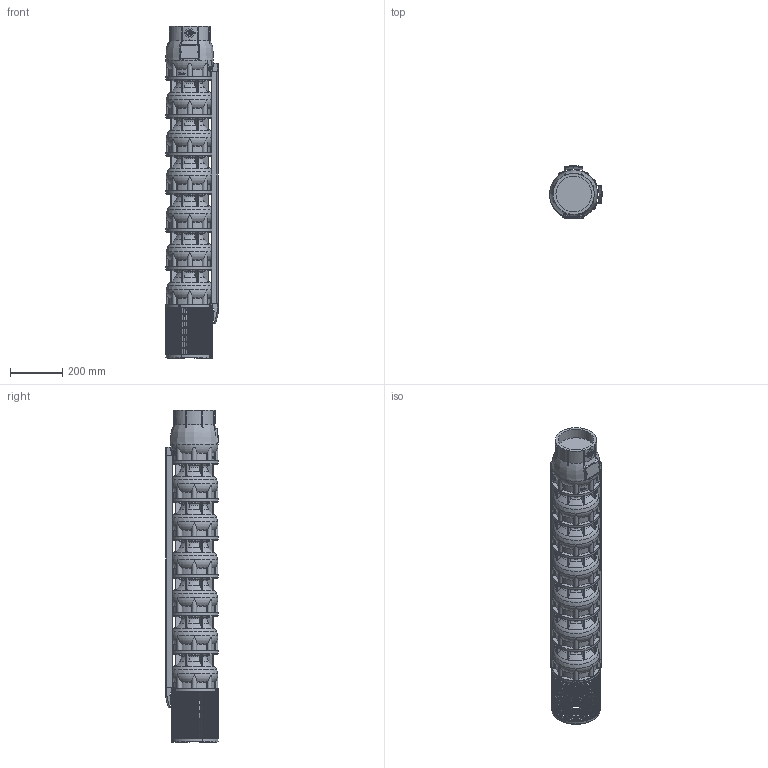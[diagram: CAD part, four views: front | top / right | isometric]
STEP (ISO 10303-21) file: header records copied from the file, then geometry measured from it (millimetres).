
FILE_DESCRIPTION(/* description */ ('Unknown'),/* implementation_level */ '2;1');
FILE_NAME(/* name */ 'VSI134-6_WR_M8-50_SLE',/* time_stamp */ '2023-09-14T15:03:56+02:00',/* author */ ('Unknown'),/* organization */ ('Unknown'),/* preprocessor_version */ 'ST-DEVELOPER v18.102',/* originating_system */ 'Solid Edge',/* authorisation */ 'Unknown');
FILE_SCHEMA (('AUTOMOTIVE_DESIGN {1 0 10303 214 3 1 1}'));
Products named in the file (11): VSI134-6_WR_M8-50_SLE; VSI134_testata; VSI134_diffusore; VSI134_supporto_8×8; VSI134_filtro_A; VSI134_filtro_B; VSI134_terminale_top_copricavo_basso; VSI134_terminale_bottom_copricavo_basso; LOW 134-6; M5X8_UNI7687; VSI134_giunto_8×8
Assembly tree (30 placements, depth 2):
  VSI134-6_WR_M8-50_SLE
    VSI134_testata
    VSI134_diffusore  x6
    VSI134_supporto_8×8
    VSI134_filtro_A
    VSI134_filtro_B
    VSI134_terminale_top_copricavo_basso  x2
    VSI134_terminale_bottom_copricavo_basso  x2
    LOW 134-6  x2
    M5X8_UNI7687  x13
    VSI134_giunto_8×8
Bounding box: 201.57 x 202.09 x 1267 mm (x, y, z)
Volume: 22020646.1 mm3; surface area: 1966836.3 mm2
Topology: 69 solids, 71 shells, 3681 faces, 10375 edges, 6915 vertices
Faces by surface type: plane 2739, cylinder 518, torus 315, cone 63, bspline 31, sphere 15
Full cylindrical faces by diameter (mm): 2.4 x2, 3 x2, 4.2 x16, 5 x13, 5.5 x8, 26 x1, 44 x1, 69 x1, 74 x1, 98 x1, 135.472 x1, 157 x1, 182 x7
Entity records: 85553 total; most frequent: CARTESIAN_POINT 18363, ORIENTED_EDGE 14056, DIRECTION 13490, EDGE_CURVE 7028, VERTEX_POINT 4730, AXIS2_PLACEMENT_3D 4596, LINE 4298, VECTOR 4298
